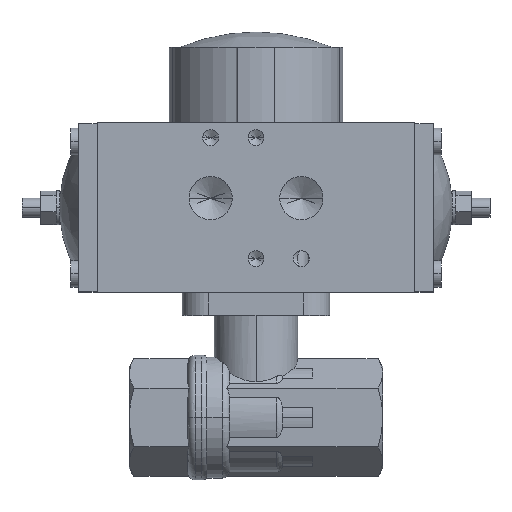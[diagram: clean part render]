
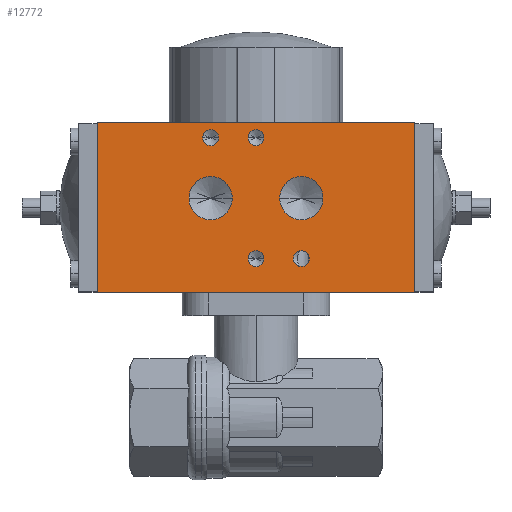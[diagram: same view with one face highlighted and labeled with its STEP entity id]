
A CAD part, top view. The second image highlights one B-rep face of the part: STEP entity #12772.
In plain terms, the highlighted planar face has unit normal (0, 0, 1) as drawn and (1, 0, 0) by its records, which use the part's own axes.
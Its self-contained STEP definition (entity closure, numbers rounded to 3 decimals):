
#610 = EDGE_CURVE ( 'NONE', #10344, #10368, #1609, .T. ) ;
#611 = EDGE_CURVE ( 'NONE', #10515, #10516, #8656, .T. ) ;
#612 = EDGE_CURVE ( 'NONE', #10534, #10541, #8658, .T. ) ;
#613 = EDGE_CURVE ( 'NONE', #10531, #10530, #8659, .T. ) ;
#614 = EDGE_CURVE ( 'NONE', #10525, #10524, #8661, .T. ) ;
#615 = EDGE_CURVE ( 'NONE', #10517, #10513, #8663, .T. ) ;
#616 = EDGE_CURVE ( 'NONE', #10507, #10504, #8665, .T. ) ;
#617 = EDGE_CURVE ( 'NONE', #10499, #10355, #1630, .T. ) ;
#1599 = CARTESIAN_POINT ( 'NONE',  ( 28.5, 22.5, -42. ) ) ;
#1609 = LINE ( 'NONE', #1599, #8654 ) ;
#1613 = DIRECTION ( 'NONE',  ( 0., 0., 1. ) ) ;
#1614 = CARTESIAN_POINT ( 'NONE',  ( 28.5, -22.5, -42. ) ) ;
#1615 = CARTESIAN_POINT ( 'NONE',  ( 28.5, 18.5, 12. ) ) ;
#1616 = DIRECTION ( 'NONE',  ( 1., 0., 0. ) ) ;
#1617 = DIRECTION ( 'NONE',  ( 0., 0., -1. ) ) ;
#1618 = CARTESIAN_POINT ( 'NONE',  ( 28.5, -13.5, -12. ) ) ;
#1619 = DIRECTION ( 'NONE',  ( 1., 0., 0. ) ) ;
#1620 = DIRECTION ( 'NONE',  ( 0., 0., -1. ) ) ;
#1621 = CARTESIAN_POINT ( 'NONE',  ( 28.5, -13.5, 0. ) ) ;
#1622 = DIRECTION ( 'NONE',  ( 1., 0., 0. ) ) ;
#1623 = DIRECTION ( 'NONE',  ( 0., 0., -1. ) ) ;
#1624 = CARTESIAN_POINT ( 'NONE',  ( 28.5, 18.5, 0. ) ) ;
#1625 = DIRECTION ( 'NONE',  ( 1., 0., 0. ) ) ;
#1626 = DIRECTION ( 'NONE',  ( 0., 0., -1. ) ) ;
#1627 = CARTESIAN_POINT ( 'NONE',  ( 28.5, 2.5, -12. ) ) ;
#1628 = DIRECTION ( 'NONE',  ( 1., 0., 0. ) ) ;
#1629 = DIRECTION ( 'NONE',  ( 0., 0., -1. ) ) ;
#1630 = LINE ( 'NONE', #1614, #8667 ) ;
#1631 = CARTESIAN_POINT ( 'NONE',  ( 28.5, 2.5, 12. ) ) ;
#1632 = DIRECTION ( 'NONE',  ( 1., 0., 0. ) ) ;
#1633 = DIRECTION ( 'NONE',  ( 0., 0., -1. ) ) ;
#1635 = DIRECTION ( 'NONE',  ( 0., 0., 1. ) ) ;
#2807 = CARTESIAN_POINT ( 'NONE',  ( 28.5, 18.5, 12. ) ) ;
#2808 = DIRECTION ( 'NONE',  ( 1., 0., 0. ) ) ;
#2809 = DIRECTION ( 'NONE',  ( 0., 0., -1. ) ) ;
#2824 = CARTESIAN_POINT ( 'NONE',  ( 28.5, -13.5, -12. ) ) ;
#2825 = DIRECTION ( 'NONE',  ( 1., 0., 0. ) ) ;
#2826 = DIRECTION ( 'NONE',  ( 0., 0., -1. ) ) ;
#2851 = CARTESIAN_POINT ( 'NONE',  ( 28.5, -13.5, 0. ) ) ;
#2852 = DIRECTION ( 'NONE',  ( 1., 0., 0. ) ) ;
#2853 = DIRECTION ( 'NONE',  ( 0., 0., -1. ) ) ;
#2869 = CARTESIAN_POINT ( 'NONE',  ( 28.5, 18.5, 0. ) ) ;
#2870 = DIRECTION ( 'NONE',  ( 1., 0., 0. ) ) ;
#2871 = DIRECTION ( 'NONE',  ( 0., 0., -1. ) ) ;
#3239 = LINE ( 'NONE', #3249, #6738 ) ;
#3249 = CARTESIAN_POINT ( 'NONE',  ( 28.5, -22.5, -42. ) ) ;
#3250 = DIRECTION ( 'NONE',  ( 0., 1., 0. ) ) ;
#3272 = LINE ( 'NONE', #3273, #6747 ) ;
#3273 = CARTESIAN_POINT ( 'NONE',  ( 28.5, -22.5, 42. ) ) ;
#3274 = DIRECTION ( 'NONE',  ( 0., 1., 0. ) ) ;
#3990 = CARTESIAN_POINT ( 'NONE',  ( 28.5, -22.5, -42. ) ) ;
#3994 = FACE_BOUND ( 'NONE', #9346, .T. ) ;
#3997 = FACE_BOUND ( 'NONE', #9380, .T. ) ;
#3998 = FACE_BOUND ( 'NONE', #9378, .T. ) ;
#3999 = FACE_BOUND ( 'NONE', #9345, .T. ) ;
#4000 = FACE_OUTER_BOUND ( 'NONE', #9377, .T. ) ;
#4001 = FACE_BOUND ( 'NONE', #9379, .T. ) ;
#4002 = PLANE ( 'NONE',  #7006 ) ;
#4003 = FACE_BOUND ( 'NONE', #9381, .T. ) ;
#4006 = DIRECTION ( 'NONE',  ( 1., 0., 0. ) ) ;
#4007 = DIRECTION ( 'NONE',  ( 0., 0., -1. ) ) ;
#5152 = EDGE_CURVE ( 'NONE', #10516, #10515, #9038, .T. ) ;
#5158 = EDGE_CURVE ( 'NONE', #10541, #10534, #9040, .T. ) ;
#5164 = EDGE_CURVE ( 'NONE', #10530, #10531, #9052, .T. ) ;
#5170 = EDGE_CURVE ( 'NONE', #10524, #10525, #9062, .T. ) ;
#5176 = EDGE_CURVE ( 'NONE', #10513, #10517, #9070, .T. ) ;
#5182 = EDGE_CURVE ( 'NONE', #10504, #10507, #9078, .T. ) ;
#5217 = CARTESIAN_POINT ( 'NONE',  ( 28.5, 2.5, -12. ) ) ;
#5218 = DIRECTION ( 'NONE',  ( 1., 0., 0. ) ) ;
#5219 = DIRECTION ( 'NONE',  ( 0., 0., -1. ) ) ;
#5236 = CARTESIAN_POINT ( 'NONE',  ( 28.5, 2.5, 12. ) ) ;
#5237 = DIRECTION ( 'NONE',  ( 1., 0., 0. ) ) ;
#5238 = DIRECTION ( 'NONE',  ( 0., 0., -1. ) ) ;
#5891 = CARTESIAN_POINT ( 'NONE',  ( 28.5, 22.5, -42. ) ) ;
#5900 = CARTESIAN_POINT ( 'NONE',  ( 28.5, -22.5, 42. ) ) ;
#5913 = CARTESIAN_POINT ( 'NONE',  ( 28.5, 22.5, 42. ) ) ;
#6031 = CARTESIAN_POINT ( 'NONE',  ( 28.5, -22.5, -42. ) ) ;
#6036 = CARTESIAN_POINT ( 'NONE',  ( 28.5, 2.5, 17.722 ) ) ;
#6039 = CARTESIAN_POINT ( 'NONE',  ( 28.5, 2.5, 6.277 ) ) ;
#6045 = CARTESIAN_POINT ( 'NONE',  ( 28.5, 2.5, -6.277 ) ) ;
#6047 = CARTESIAN_POINT ( 'NONE',  ( 28.5, 18.5, 9.9 ) ) ;
#6048 = CARTESIAN_POINT ( 'NONE',  ( 28.5, 18.5, 14.1 ) ) ;
#6049 = CARTESIAN_POINT ( 'NONE',  ( 28.5, 2.5, -17.722 ) ) ;
#6055 = CARTESIAN_POINT ( 'NONE',  ( 28.5, 18.5, 2.1 ) ) ;
#6056 = CARTESIAN_POINT ( 'NONE',  ( 28.5, 18.5, -2.1 ) ) ;
#6061 = CARTESIAN_POINT ( 'NONE',  ( 28.5, -13.5, 2.1 ) ) ;
#6062 = CARTESIAN_POINT ( 'NONE',  ( 28.5, -13.5, -2.1 ) ) ;
#6065 = CARTESIAN_POINT ( 'NONE',  ( 28.5, -13.5, -14.1 ) ) ;
#6072 = CARTESIAN_POINT ( 'NONE',  ( 28.5, -13.5, -9.9 ) ) ;
#6738 = VECTOR ( 'NONE', #3250, 1000. ) ;
#6747 = VECTOR ( 'NONE', #3274, 1000. ) ;
#7006 = AXIS2_PLACEMENT_3D ( 'NONE', #3990, #4006, #4007 ) ;
#8654 = VECTOR ( 'NONE', #1613, 1000. ) ;
#8656 = CIRCLE ( 'NONE', #8660, 2.1 ) ;
#8658 = CIRCLE ( 'NONE', #8662, 2.1 ) ;
#8659 = CIRCLE ( 'NONE', #8664, 2.1 ) ;
#8660 = AXIS2_PLACEMENT_3D ( 'NONE', #1615, #1616, #1617 ) ;
#8661 = CIRCLE ( 'NONE', #8666, 2.1 ) ;
#8662 = AXIS2_PLACEMENT_3D ( 'NONE', #1618, #1619, #1620 ) ;
#8663 = CIRCLE ( 'NONE', #8668, 5.722 ) ;
#8664 = AXIS2_PLACEMENT_3D ( 'NONE', #1621, #1622, #1623 ) ;
#8665 = CIRCLE ( 'NONE', #8670, 5.722 ) ;
#8666 = AXIS2_PLACEMENT_3D ( 'NONE', #1624, #1625, #1626 ) ;
#8667 = VECTOR ( 'NONE', #1635, 1000. ) ;
#8668 = AXIS2_PLACEMENT_3D ( 'NONE', #1627, #1628, #1629 ) ;
#8670 = AXIS2_PLACEMENT_3D ( 'NONE', #1631, #1632, #1633 ) ;
#9038 = CIRCLE ( 'NONE', #9042, 2.1 ) ;
#9040 = CIRCLE ( 'NONE', #9050, 2.1 ) ;
#9042 = AXIS2_PLACEMENT_3D ( 'NONE', #2807, #2808, #2809 ) ;
#9050 = AXIS2_PLACEMENT_3D ( 'NONE', #2824, #2825, #2826 ) ;
#9052 = CIRCLE ( 'NONE', #9058, 2.1 ) ;
#9058 = AXIS2_PLACEMENT_3D ( 'NONE', #2851, #2852, #2853 ) ;
#9062 = CIRCLE ( 'NONE', #9066, 2.1 ) ;
#9066 = AXIS2_PLACEMENT_3D ( 'NONE', #2869, #2870, #2871 ) ;
#9070 = CIRCLE ( 'NONE', #9074, 5.722 ) ;
#9074 = AXIS2_PLACEMENT_3D ( 'NONE', #5217, #5218, #5219 ) ;
#9078 = CIRCLE ( 'NONE', #9082, 5.722 ) ;
#9082 = AXIS2_PLACEMENT_3D ( 'NONE', #5236, #5237, #5238 ) ;
#9345 = EDGE_LOOP ( 'NONE', ( #10273, #10274 ) ) ;
#9346 = EDGE_LOOP ( 'NONE', ( #10265, #10266 ) ) ;
#9377 = EDGE_LOOP ( 'NONE', ( #10275, #10276, #10277, #10278 ) ) ;
#9378 = EDGE_LOOP ( 'NONE', ( #10263, #10264 ) ) ;
#9379 = EDGE_LOOP ( 'NONE', ( #10267, #10268 ) ) ;
#9380 = EDGE_LOOP ( 'NONE', ( #10271, #10272 ) ) ;
#9381 = EDGE_LOOP ( 'NONE', ( #10269, #10270 ) ) ;
#10263 = ORIENTED_EDGE ( 'NONE', *, *, #611, .F. ) ;
#10264 = ORIENTED_EDGE ( 'NONE', *, *, #5152, .F. ) ;
#10265 = ORIENTED_EDGE ( 'NONE', *, *, #612, .F. ) ;
#10266 = ORIENTED_EDGE ( 'NONE', *, *, #5158, .F. ) ;
#10267 = ORIENTED_EDGE ( 'NONE', *, *, #613, .F. ) ;
#10268 = ORIENTED_EDGE ( 'NONE', *, *, #5164, .F. ) ;
#10269 = ORIENTED_EDGE ( 'NONE', *, *, #614, .F. ) ;
#10270 = ORIENTED_EDGE ( 'NONE', *, *, #5170, .F. ) ;
#10271 = ORIENTED_EDGE ( 'NONE', *, *, #615, .F. ) ;
#10272 = ORIENTED_EDGE ( 'NONE', *, *, #5176, .F. ) ;
#10273 = ORIENTED_EDGE ( 'NONE', *, *, #616, .F. ) ;
#10274 = ORIENTED_EDGE ( 'NONE', *, *, #5182, .F. ) ;
#10275 = ORIENTED_EDGE ( 'NONE', *, *, #610, .T. ) ;
#10276 = ORIENTED_EDGE ( 'NONE', *, *, #11143, .F. ) ;
#10277 = ORIENTED_EDGE ( 'NONE', *, *, #617, .F. ) ;
#10278 = ORIENTED_EDGE ( 'NONE', *, *, #11135, .T. ) ;
#10344 = VERTEX_POINT ( 'NONE', #5891 ) ;
#10355 = VERTEX_POINT ( 'NONE', #5900 ) ;
#10368 = VERTEX_POINT ( 'NONE', #5913 ) ;
#10499 = VERTEX_POINT ( 'NONE', #6031 ) ;
#10504 = VERTEX_POINT ( 'NONE', #6036 ) ;
#10507 = VERTEX_POINT ( 'NONE', #6039 ) ;
#10513 = VERTEX_POINT ( 'NONE', #6045 ) ;
#10515 = VERTEX_POINT ( 'NONE', #6047 ) ;
#10516 = VERTEX_POINT ( 'NONE', #6048 ) ;
#10517 = VERTEX_POINT ( 'NONE', #6049 ) ;
#10524 = VERTEX_POINT ( 'NONE', #6055 ) ;
#10525 = VERTEX_POINT ( 'NONE', #6056 ) ;
#10530 = VERTEX_POINT ( 'NONE', #6061 ) ;
#10531 = VERTEX_POINT ( 'NONE', #6062 ) ;
#10534 = VERTEX_POINT ( 'NONE', #6065 ) ;
#10541 = VERTEX_POINT ( 'NONE', #6072 ) ;
#11135 = EDGE_CURVE ( 'NONE', #10499, #10344, #3239, .T. ) ;
#11143 = EDGE_CURVE ( 'NONE', #10355, #10368, #3272, .T. ) ;
#12772 = ADVANCED_FACE ( 'NONE', ( #3998, #3994, #4001, #4003, #3997, #3999, #4000 ), #4002, .T. ) ;
